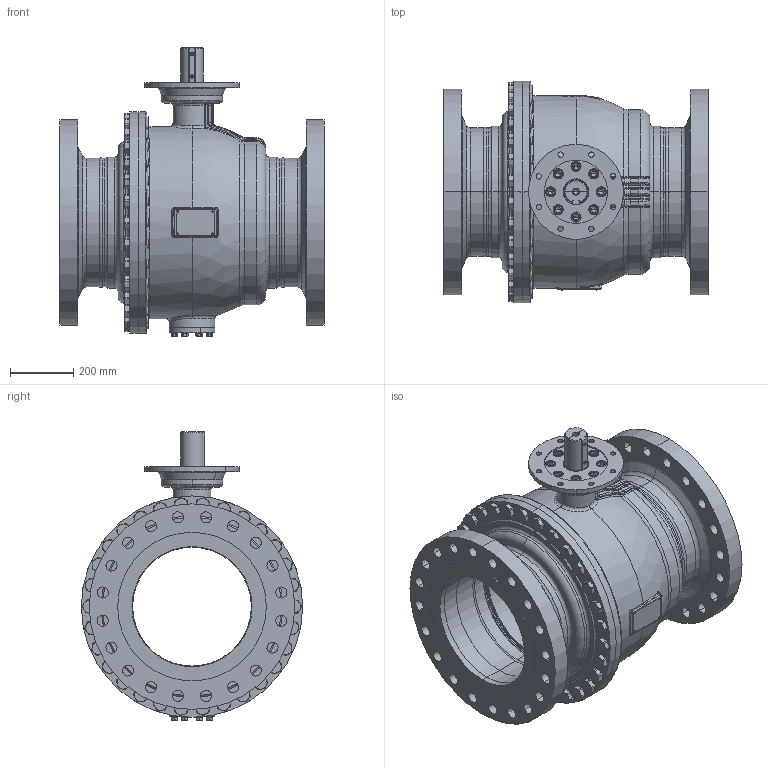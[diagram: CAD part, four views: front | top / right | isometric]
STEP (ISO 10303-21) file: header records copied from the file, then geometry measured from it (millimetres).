
FILE_DESCRIPTION((''),'2;1');
FILE_NAME('KHI-F_400_CL300-F25-P_SW0001','2026-02-05T16:15:54',('fischerkl'),('KLINGER'),'CREO PARAMETRIC BY PTC INC, 2023014','CREO PARAMETRIC BY PTC INC, 2023014','');
FILE_SCHEMA(('CONFIG_CONTROL_DESIGN'));
Products named in the file (1): KHI-F_400_CL300-F25-P_SW0001
Bounding box: 838 x 700 x 911.3 mm (x, y, z)
Volume: 67796643.5 mm3; surface area: 7426511 mm2
Topology: 1 solids, 4 shells, 3597 faces, 9070 edges, 5668 vertices
Faces by surface type: plane 1771, cylinder 877, cone 508, torus 311, bspline 99, sphere 31
Entity records: 153909 total; most frequent: CARTESIAN_POINT 68168, ORIENTED_EDGE 18088, DIRECTION 17768, EDGE_CURVE 9044, AXIS2_PLACEMENT_3D 6826, VERTEX_POINT 5668, VECTOR 4116, LINE 4116
